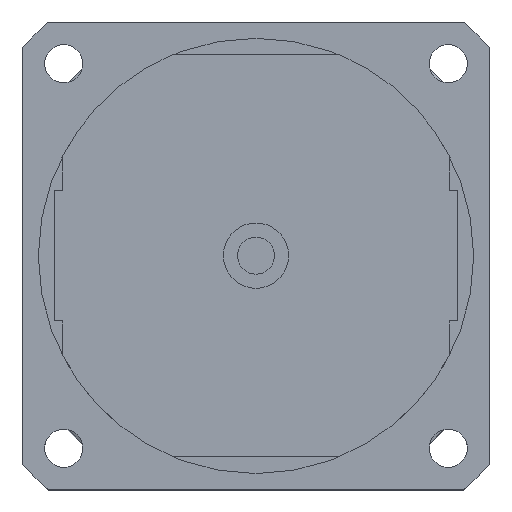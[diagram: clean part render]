
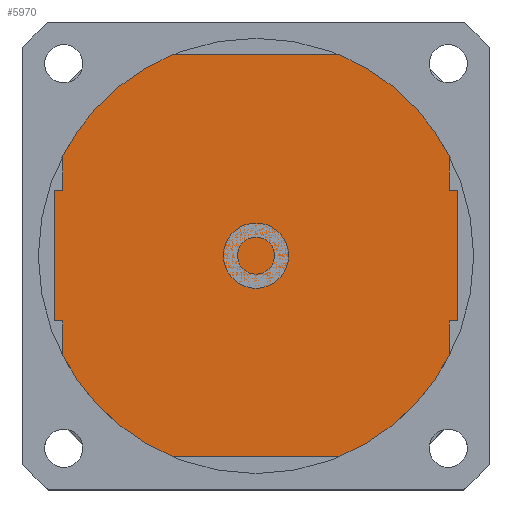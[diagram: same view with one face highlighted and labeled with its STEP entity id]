
A CAD part, top view. The second image highlights one B-rep face of the part: STEP entity #5970.
In plain terms, the highlighted planar face has unit normal (0, 0, 1).
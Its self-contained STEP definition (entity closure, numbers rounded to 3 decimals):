
#1739=LINE('',#9512,#7068);
#1743=LINE('',#9521,#7072);
#1747=LINE('',#9530,#7076);
#1750=LINE('',#9536,#7079);
#1753=LINE('',#9542,#7082);
#1757=LINE('',#9551,#7086);
#1759=LINE('',#9556,#7088);
#1760=LINE('',#9560,#7089);
#1761=LINE('',#9562,#7090);
#1762=LINE('',#9564,#7091);
#1763=LINE('',#9566,#7092);
#1764=LINE('',#9569,#7093);
#1765=LINE('',#9573,#7094);
#1766=LINE('',#9575,#7095);
#1767=LINE('',#9577,#7096);
#1768=LINE('',#9579,#7097);
#2294=VERTEX_POINT('',#9513);
#2295=VERTEX_POINT('',#9514);
#2298=VERTEX_POINT('',#9522);
#2299=VERTEX_POINT('',#9523);
#2302=VERTEX_POINT('',#9531);
#2304=VERTEX_POINT('',#9537);
#2306=VERTEX_POINT('',#9543);
#2307=VERTEX_POINT('',#9544);
#2310=VERTEX_POINT('',#9555);
#2311=VERTEX_POINT('',#9557);
#2312=VERTEX_POINT('',#9559);
#2313=VERTEX_POINT('',#9561);
#2314=VERTEX_POINT('',#9563);
#2315=VERTEX_POINT('',#9565);
#2316=VERTEX_POINT('',#9568);
#2317=VERTEX_POINT('',#9570);
#2318=VERTEX_POINT('',#9572);
#2319=VERTEX_POINT('',#9574);
#2320=VERTEX_POINT('',#9576);
#2321=VERTEX_POINT('',#9578);
#2682=CIRCLE('',#6514,40.);
#2683=CIRCLE('',#6515,40.);
#2684=CIRCLE('',#6516,40.);
#2685=CIRCLE('',#6517,40.);
#3144=EDGE_CURVE('',#2294,#2295,#1739,.T.);
#3148=EDGE_CURVE('',#2298,#2299,#1743,.T.);
#3152=EDGE_CURVE('',#2299,#2302,#1747,.T.);
#3155=EDGE_CURVE('',#2302,#2304,#1750,.T.);
#3158=EDGE_CURVE('',#2306,#2307,#1753,.T.);
#3162=EDGE_CURVE('',#2307,#2294,#1757,.T.);
#3164=EDGE_CURVE('',#2310,#2306,#2682,.T.);
#3165=EDGE_CURVE('',#2311,#2310,#1759,.T.);
#3166=EDGE_CURVE('',#2312,#2311,#2683,.T.);
#3167=EDGE_CURVE('',#2313,#2312,#1760,.T.);
#3168=EDGE_CURVE('',#2314,#2313,#1761,.T.);
#3169=EDGE_CURVE('',#2315,#2314,#1762,.T.);
#3170=EDGE_CURVE('',#2304,#2315,#1763,.T.);
#3171=EDGE_CURVE('',#2316,#2298,#2684,.T.);
#3172=EDGE_CURVE('',#2317,#2316,#1764,.T.);
#3173=EDGE_CURVE('',#2318,#2317,#2685,.T.);
#3174=EDGE_CURVE('',#2319,#2318,#1765,.T.);
#3175=EDGE_CURVE('',#2320,#2319,#1766,.T.);
#3176=EDGE_CURVE('',#2321,#2320,#1767,.T.);
#3177=EDGE_CURVE('',#2295,#2321,#1768,.T.);
#4218=ORIENTED_EDGE('',*,*,#3144,.F.);
#4219=ORIENTED_EDGE('',*,*,#3162,.F.);
#4220=ORIENTED_EDGE('',*,*,#3158,.F.);
#4221=ORIENTED_EDGE('',*,*,#3164,.F.);
#4222=ORIENTED_EDGE('',*,*,#3165,.F.);
#4223=ORIENTED_EDGE('',*,*,#3166,.F.);
#4224=ORIENTED_EDGE('',*,*,#3167,.F.);
#4225=ORIENTED_EDGE('',*,*,#3168,.F.);
#4226=ORIENTED_EDGE('',*,*,#3169,.F.);
#4227=ORIENTED_EDGE('',*,*,#3170,.F.);
#4228=ORIENTED_EDGE('',*,*,#3155,.F.);
#4229=ORIENTED_EDGE('',*,*,#3152,.F.);
#4230=ORIENTED_EDGE('',*,*,#3148,.F.);
#4231=ORIENTED_EDGE('',*,*,#3171,.F.);
#4232=ORIENTED_EDGE('',*,*,#3172,.F.);
#4233=ORIENTED_EDGE('',*,*,#3173,.F.);
#4234=ORIENTED_EDGE('',*,*,#3174,.F.);
#4235=ORIENTED_EDGE('',*,*,#3175,.F.);
#4236=ORIENTED_EDGE('',*,*,#3176,.F.);
#4237=ORIENTED_EDGE('',*,*,#3177,.F.);
#5218=EDGE_LOOP('',(#4218,#4219,#4220,#4221,#4222,#4223,#4224,#4225,#4226,
#4227,#4228,#4229,#4230,#4231,#4232,#4233,#4234,#4235,#4236,#4237));
#5632=FACE_BOUND('',#5218,.T.);
#5970=ADVANCED_FACE('',(#5632),#7335,.T.);
#6513=AXIS2_PLACEMENT_3D('',#9553,#12476,$);
#6514=AXIS2_PLACEMENT_3D('',#9554,#12477,#12478);
#6515=AXIS2_PLACEMENT_3D('',#9558,#12480,#12481);
#6516=AXIS2_PLACEMENT_3D('',#9567,#12486,#12487);
#6517=AXIS2_PLACEMENT_3D('',#9571,#12489,#12490);
#7068=VECTOR('',#12451,1.);
#7072=VECTOR('',#12456,1.);
#7076=VECTOR('',#12461,1.);
#7079=VECTOR('',#12465,1.);
#7082=VECTOR('',#12469,1.);
#7086=VECTOR('',#12474,1.);
#7088=VECTOR('',#12479,1.);
#7089=VECTOR('',#12482,1.);
#7090=VECTOR('',#12483,1.);
#7091=VECTOR('',#12484,1.);
#7092=VECTOR('',#12485,1.);
#7093=VECTOR('',#12488,1.);
#7094=VECTOR('',#12491,1.);
#7095=VECTOR('',#12492,1.);
#7096=VECTOR('',#12493,1.);
#7097=VECTOR('',#12494,1.);
#7335=PLANE('',#6513);
#9512=CARTESIAN_POINT('',(35.5,12.,126.));
#9513=CARTESIAN_POINT('',(35.5,12.,126.));
#9514=CARTESIAN_POINT('',(37.,12.,126.));
#9521=CARTESIAN_POINT('',(-35.721,-18.,126.));
#9522=CARTESIAN_POINT('',(-35.721,-18.,126.));
#9523=CARTESIAN_POINT('',(-35.5,-18.,126.));
#9530=CARTESIAN_POINT('',(-35.5,-18.,126.));
#9531=CARTESIAN_POINT('',(-35.5,-12.,126.));
#9536=CARTESIAN_POINT('',(-35.5,-12.,126.));
#9537=CARTESIAN_POINT('',(-37.,-12.,126.));
#9542=CARTESIAN_POINT('',(35.721,18.,126.));
#9543=CARTESIAN_POINT('',(35.721,18.,126.));
#9544=CARTESIAN_POINT('',(35.5,18.,126.));
#9551=CARTESIAN_POINT('',(35.5,18.,126.));
#9553=CARTESIAN_POINT('',(0.,0.,126.));
#9554=CARTESIAN_POINT('',(0.,0.,126.));
#9555=CARTESIAN_POINT('',(15.199,37.,126.));
#9556=CARTESIAN_POINT('',(-15.199,37.,126.));
#9557=CARTESIAN_POINT('',(-15.199,37.,126.));
#9558=CARTESIAN_POINT('',(0.,0.,126.));
#9559=CARTESIAN_POINT('',(-35.721,18.,126.));
#9560=CARTESIAN_POINT('',(-35.5,18.,126.));
#9561=CARTESIAN_POINT('',(-35.5,18.,126.));
#9562=CARTESIAN_POINT('',(-35.5,12.,126.));
#9563=CARTESIAN_POINT('',(-35.5,12.,126.));
#9564=CARTESIAN_POINT('',(-37.,12.,126.));
#9565=CARTESIAN_POINT('',(-37.,12.,126.));
#9566=CARTESIAN_POINT('',(-37.,-12.,126.));
#9567=CARTESIAN_POINT('',(0.,0.,126.));
#9568=CARTESIAN_POINT('',(-15.199,-37.,126.));
#9569=CARTESIAN_POINT('',(15.199,-37.,126.));
#9570=CARTESIAN_POINT('',(15.199,-37.,126.));
#9571=CARTESIAN_POINT('',(0.,0.,126.));
#9572=CARTESIAN_POINT('',(35.721,-18.,126.));
#9573=CARTESIAN_POINT('',(35.5,-18.,126.));
#9574=CARTESIAN_POINT('',(35.5,-18.,126.));
#9575=CARTESIAN_POINT('',(35.5,-12.,126.));
#9576=CARTESIAN_POINT('',(35.5,-12.,126.));
#9577=CARTESIAN_POINT('',(37.,-12.,126.));
#9578=CARTESIAN_POINT('',(37.,-12.,126.));
#9579=CARTESIAN_POINT('',(37.,12.,126.));
#12451=DIRECTION('',(1.,0.,0.));
#12456=DIRECTION('',(1.,0.,0.));
#12461=DIRECTION('',(0.,1.,0.));
#12465=DIRECTION('',(-1.,0.,0.));
#12469=DIRECTION('',(-1.,0.,0.));
#12474=DIRECTION('',(0.,-1.,0.));
#12476=DIRECTION('',(0.,0.,1.));
#12477=DIRECTION('',(0.,0.,-1.));
#12478=DIRECTION('',(40.,0.,0.));
#12479=DIRECTION('',(1.,0.,0.));
#12480=DIRECTION('',(0.,0.,-1.));
#12481=DIRECTION('',(40.,0.,0.));
#12482=DIRECTION('',(-1.,0.,0.));
#12483=DIRECTION('',(0.,1.,0.));
#12484=DIRECTION('',(1.,0.,0.));
#12485=DIRECTION('',(0.,1.,0.));
#12486=DIRECTION('',(0.,0.,-1.));
#12487=DIRECTION('',(40.,0.,0.));
#12488=DIRECTION('',(-1.,0.,0.));
#12489=DIRECTION('',(0.,0.,-1.));
#12490=DIRECTION('',(40.,0.,0.));
#12491=DIRECTION('',(1.,0.,0.));
#12492=DIRECTION('',(0.,-1.,0.));
#12493=DIRECTION('',(-1.,0.,0.));
#12494=DIRECTION('',(0.,-1.,0.));
